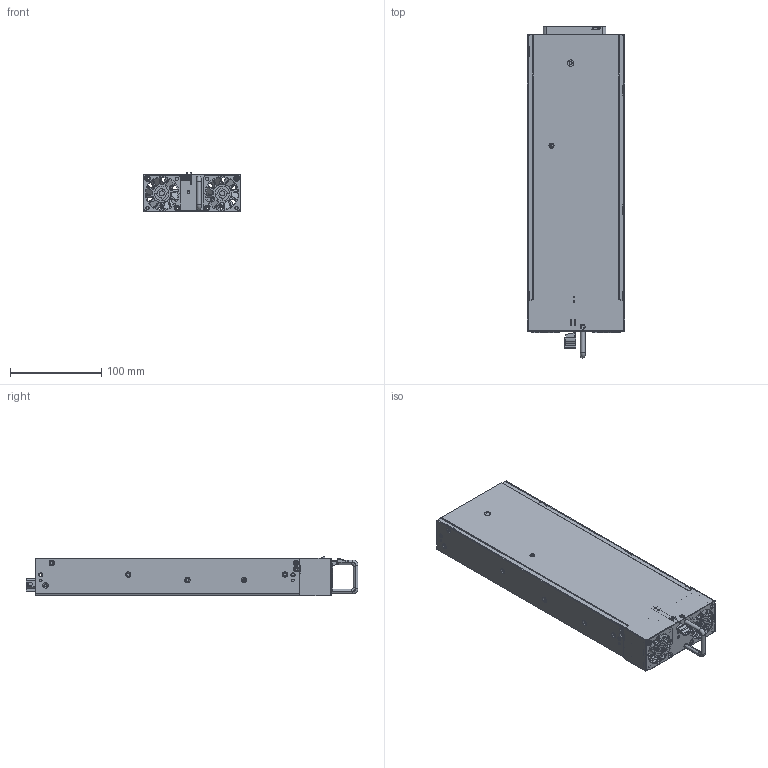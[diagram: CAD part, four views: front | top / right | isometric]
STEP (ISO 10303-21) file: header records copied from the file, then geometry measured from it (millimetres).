
FILE_DESCRIPTION(('Creo Elements/Direct Modeling STEP Export'),'2;1');
FILE_NAME('NCP-3200.stp','2026-07-02T18:21:52',(''),(''),'PTC Creo Elements/Direct Modeling STEP processor for AP214 (Solid Model)','PTC Creo Elements/Direct Modeling 19.0 09-May-2014 (C) Parametric Technology GmbH','');
FILE_SCHEMA(('AUTOMOTIVE_DESIGN { 1 0 10303 214 1 1 1 1 }'));
Length unit declared in the file: millimetre
Products named in the file (110): FAN_COVER_1_1_PRT_1_1_PRT_PRT_P.PRT; C27208-100A_STEP_PRT_PRT.PRT; C27309-100A_PRT_PRT_PRT.PRT; C27209-10749-Y___3D_STEP_ASM_AS.ASM; A9_PRT_PRT.PRT; C272XX_0711_STEP_PRT_PRT.PRT; P2_PRT_PRT.PRT; _X2_56FA5B9A9435_X0__1_PRT_PRT.PRT; C273XX_0725_STEP_PRT_PRT.PRT; C27206_0725_STEP_PRT_PRT.PRT; A10_ASM_ASM.ASM; C27309-10749-Y___3D_STEP_PRT_PR.PRT; C272XX_0727_STEP_PRT_PRT.PRT; A11_ASM_ASM.ASM; 26D77668-81B1-466B-87E3-FC1E3B3.PRT; _X2_55AE6A5F98A8624784CB_X0__4_.PRT; DDD_PRT_PRT.PRT; DDD_1_PRT_PRT.PRT; _X2_524D84CB_X0__PRT_PRT.PRT; M22_PRT_PRT.PRT; M22_1_PRT_PRT.PRT; VR_1_1_PRT_PRT.PRT; A1-313180_PRT_PRT.PRT; SS_1_PRT_PRT.PRT; A1_1_ASM_ASM.ASM; A1_2_PRT_PRT.PRT; A2-308570_PRT_PRT.PRT; A3_1_PRT_PRT.PRT; P5_PRT_PRT.PRT; TOP-COVER_0511__1_1_PRT_PRT_PRT.PRT; A4_ASM_ASM.ASM; HS3_PRT_PRT.PRT; V_PRT_PRT.PRT; C-C_PRT_PRT.PRT; C-B_PRT_PRT.PRT; A2-211570_ASM_ASM.ASM; A2_1_PRT_PRT.PRT; _X2_55AE6A5F_X0__1_1_1_1_ASM_AS.ASM; EEE_PRT_PRT.PRT; A5_ASM_ASM.ASM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
Assembly tree (114 placements, depth 13):
  NCP-3200.stp
    NCP-3200_STP.ASM
      RCP-3200_STP_ASM.ASM
        A7_ASM_ASM.ASM
          A7_1_1_1_ASM_ASM.ASM
            A8_ASM_ASM.ASM
              A1-16290_ASM_ASM.ASM
                _X2_628A624B_X0_A_ASM_ASM.ASM
                  _X2_628A624B_X0_B_PRT_PRT.PRT
                _S_JU_S____PRT_PRT.PRT
                952_1_ASM_ASM.ASM
                  HS_PRT_PRT.PRT
                  A1_3_PRT_PRT.PRT
                  A1-1460_PRT_PRT.PRT
                  MHL-24_STP_ASM_ASM.ASM
                  SS_PRT_PRT.PRT
                MOS_ASM_ASM.ASM
                  TR-4RL_STP_ASM_ASM.ASM
            NCP-3200_ASM_0714_STP_ASM_ASM.ASM
              NSP-3200_ASM_0531_ASM_1_ASM_ASM.ASM
                NSP-3200___ASM_1_ASM_1_ASM_ASM_.ASM
                  A6_ASM_1_1_PRT_PRT_PRT.PRT
                  A5_ASM_1_ASM_1_ASM_ASM_ASM.ASM
                  A4_ASM_3_1_PRT_PRT_PRT.PRT
                  A3_1_ASM_1_1_PRT_PRT_PRT.PRT
                  A2_2_ASM_1_1_PRT_PRT_PRT.PRT
                  A1_2_ASM_4_1_PRT_PRT_PRT.PRT
                  A1_1_ASM_5_ASM_1_ASM_ASM_ASM.ASM
                  A1_ASM_7_ASM_1_ASM_ASM_ASM.ASM
                  ____1_2_1_PRT_PRT_PRT.PRT  x2
                  VR_1_1_1_1_PRT_PRT_PRT.PRT  x2
                  M22_1_5_1_PRT_PRT_PRT.PRT
                  M22_1_1_PRT_PRT_PRT.PRT
                  ___ASM_2_1_PRT_PRT_PRT.PRT
                  DDD_1_5_1_PRT_PRT_PRT.PRT
                  DDD_6_1_PRT_PRT_PRT.PRT
                  26D77668-81B1-466B-87E3-FC1E3B_.PRT  x2
                  BOTTOM_CASE_1_1_PRT_PRT_PRT.PRT
                  CLIP-COVER_0511_5_1_PRT_PRT_PRT.PRT
                  ______4_2_1_PRT_PRT_PRT.PRT
                  P2_4_1_PRT_PRT_PRT.PRT
                  A8_ASM_1_ASM_1_ASM_ASM_ASM.ASM
            A6_PRT_PRT.PRT
            A5_ASM_ASM.ASM
              EEE_PRT_PRT.PRT
              _X2_55AE6A5F_X0__1_1_1_1_ASM_AS.ASM
                A2_1_PRT_PRT.PRT
                A2-211570_ASM_ASM.ASM
                  C-B_PRT_PRT.PRT
                  C-C_PRT_PRT.PRT
                V_PRT_PRT.PRT
              HS3_PRT_PRT.PRT
            A4_ASM_ASM.ASM
              TOP-COVER_0511__1_1_PRT_PRT_PRT.PRT
              P5_PRT_PRT.PRT
            A3_1_PRT_PRT.PRT
            A2-308570_PRT_PRT.PRT
            A1_2_PRT_PRT.PRT
            A1_1_ASM_ASM.ASM
              SS_1_PRT_PRT.PRT
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Bounding box: 106.9 x 363.27 x 43.1 mm (x, y, z)
Volume: 395322.8 mm3; surface area: 507405 mm2
Topology: 39 solids, 39 shells, 4595 faces, 12534 edges, 8161 vertices
Faces by surface type: plane 3082, cylinder 1182, cone 162, torus 142, extrusion 15, sphere 8, bspline 4
Entity records: 159201 total; most frequent: CARTESIAN_POINT 26869, ORIENTED_EDGE 23418, DIRECTION 21849, EDGE_CURVE 11709, VECTOR 8657, LINE 8642, VERTEX_POINT 7637, AXIS2_PLACEMENT_3D 6596
